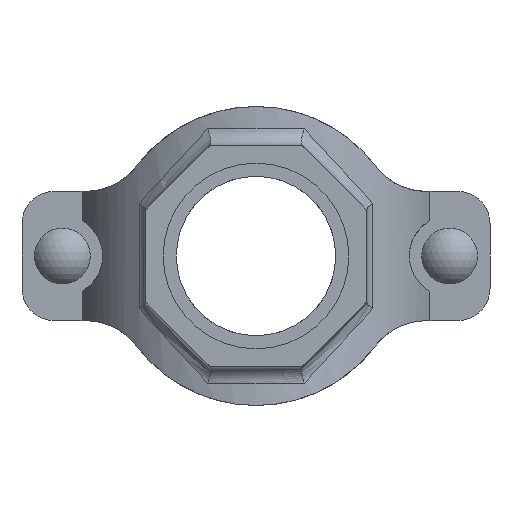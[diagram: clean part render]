
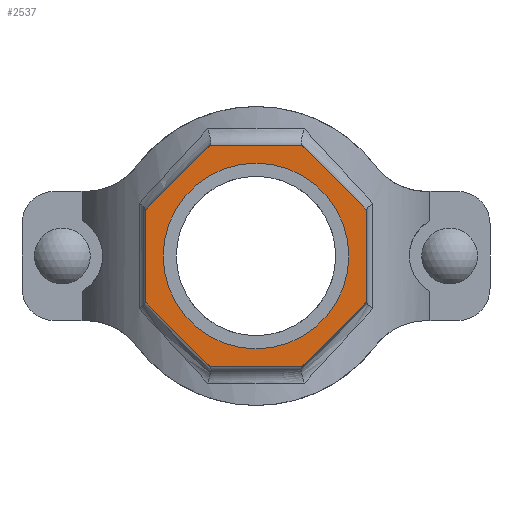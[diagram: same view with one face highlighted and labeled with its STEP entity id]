
A CAD part, front view. The second image highlights one B-rep face of the part: STEP entity #2537.
In plain terms, the highlighted planar face has unit normal (0, -1, 0) as drawn and (0, 1, 0) by its records, which use the part's own axes.
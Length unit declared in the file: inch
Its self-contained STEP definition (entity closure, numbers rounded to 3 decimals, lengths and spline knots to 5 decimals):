
#186=FACE_BOUND('',#457,.T.);
#305=FACE_OUTER_BOUND('',#456,.T.);
#456=EDGE_LOOP('',(#2128,#2129,#2130,#2131,#2132,#2133,#2134,#2135));
#457=EDGE_LOOP('',(#2136));
#594=LINE('',#4843,#780);
#597=LINE('',#4848,#783);
#599=LINE('',#4852,#785);
#601=LINE('',#4856,#787);
#637=LINE('',#5329,#823);
#639=LINE('',#5333,#825);
#641=LINE('',#5337,#827);
#643=LINE('',#5340,#829);
#780=VECTOR('',#3278,0.3937);
#783=VECTOR('',#3283,0.3937);
#785=VECTOR('',#3287,0.3937);
#787=VECTOR('',#3291,0.3937);
#823=VECTOR('',#3419,0.3937);
#825=VECTOR('',#3423,0.3937);
#827=VECTOR('',#3427,0.3937);
#829=VECTOR('',#3431,0.3937);
#919=CIRCLE('',#2802,1.4375);
#1097=VERTEX_POINT('',#4840);
#1098=VERTEX_POINT('',#4842);
#1099=VERTEX_POINT('',#4846);
#1100=VERTEX_POINT('',#4850);
#1101=VERTEX_POINT('',#4854);
#1136=VERTEX_POINT('',#5158);
#1158=VERTEX_POINT('',#5328);
#1159=VERTEX_POINT('',#5332);
#1160=VERTEX_POINT('',#5336);
#1408=EDGE_CURVE('',#1098,#1097,#594,.T.);
#1411=EDGE_CURVE('',#1097,#1099,#597,.T.);
#1413=EDGE_CURVE('',#1099,#1100,#599,.T.);
#1415=EDGE_CURVE('',#1100,#1101,#601,.T.);
#1461=EDGE_CURVE('',#1136,#1136,#919,.T.);
#1491=EDGE_CURVE('',#1158,#1098,#637,.T.);
#1493=EDGE_CURVE('',#1159,#1158,#639,.T.);
#1495=EDGE_CURVE('',#1160,#1159,#641,.T.);
#1497=EDGE_CURVE('',#1101,#1160,#643,.T.);
#2128=ORIENTED_EDGE('',*,*,#1497,.T.);
#2129=ORIENTED_EDGE('',*,*,#1495,.T.);
#2130=ORIENTED_EDGE('',*,*,#1493,.T.);
#2131=ORIENTED_EDGE('',*,*,#1491,.T.);
#2132=ORIENTED_EDGE('',*,*,#1408,.T.);
#2133=ORIENTED_EDGE('',*,*,#1411,.T.);
#2134=ORIENTED_EDGE('',*,*,#1413,.T.);
#2135=ORIENTED_EDGE('',*,*,#1415,.T.);
#2136=ORIENTED_EDGE('',*,*,#1461,.T.);
#2278=PLANE('',#2823);
#2537=ADVANCED_FACE('',(#305,#186),#2278,.T.);
#2802=AXIS2_PLACEMENT_3D('',#5159,#3369,#3370);
#2823=AXIS2_PLACEMENT_3D('',#5341,#3432,#3433);
#3278=DIRECTION('',(0.,0.,1.));
#3283=DIRECTION('',(0.707,0.,0.707));
#3287=DIRECTION('',(1.,0.,0.));
#3291=DIRECTION('',(0.707,0.,-0.707));
#3369=DIRECTION('center_axis',(0.,-1.,0.));
#3370=DIRECTION('ref_axis',(-1.,0.,0.));
#3419=DIRECTION('',(-0.707,0.,0.707));
#3423=DIRECTION('',(-1.,0.,0.));
#3427=DIRECTION('',(-0.707,0.,-0.707));
#3431=DIRECTION('',(0.,0.,-1.));
#3432=DIRECTION('center_axis',(0.,1.,0.));
#3433=DIRECTION('ref_axis',(0.,0.,1.));
#4840=CARTESIAN_POINT('',(-1.71875,4.,0.71193));
#4842=CARTESIAN_POINT('',(-1.71875,4.,-0.71193));
#4843=CARTESIAN_POINT('',(-1.71875,4.,0.71193));
#4846=CARTESIAN_POINT('',(-0.71193,4.,1.71875));
#4848=CARTESIAN_POINT('',(-0.71193,4.,1.71875));
#4850=CARTESIAN_POINT('',(0.71193,4.,1.71875));
#4852=CARTESIAN_POINT('',(0.71193,4.,1.71875));
#4854=CARTESIAN_POINT('',(1.71875,4.,0.71193));
#4856=CARTESIAN_POINT('',(1.71875,4.,0.71193));
#5158=CARTESIAN_POINT('',(1.4375,4.,0.));
#5159=CARTESIAN_POINT('Origin',(0.,4.,0.));
#5328=CARTESIAN_POINT('',(-0.71193,4.,-1.71875));
#5329=CARTESIAN_POINT('',(-1.71875,4.,-0.71193));
#5332=CARTESIAN_POINT('',(0.71193,4.,-1.71875));
#5333=CARTESIAN_POINT('',(-0.71193,4.,-1.71875));
#5336=CARTESIAN_POINT('',(1.71875,4.,-0.71193));
#5337=CARTESIAN_POINT('',(0.71193,4.,-1.71875));
#5340=CARTESIAN_POINT('',(1.71875,4.,-0.71193));
#5341=CARTESIAN_POINT('Origin',(0.,4.,0.));
